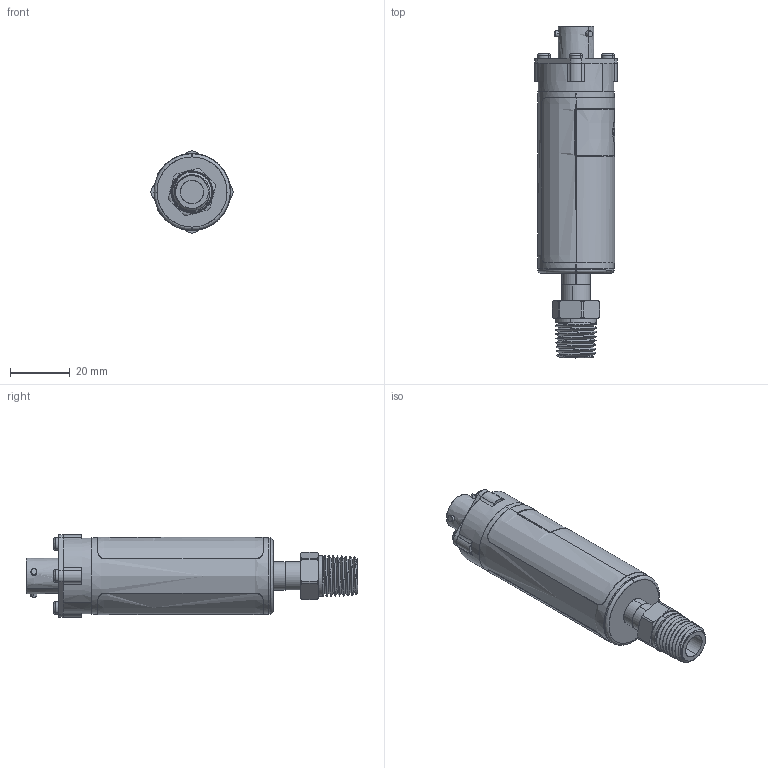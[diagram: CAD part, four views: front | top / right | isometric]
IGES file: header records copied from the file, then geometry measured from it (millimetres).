
Start section: SolidWorks IGES file using analytic representation for surfaces
Global section: file name: R:\Brooks Instrument\25-0024 SSII CAD File Generation\Client Files\SSII CAD Models for Website\CAD for Brooks Website\Example\GSD\GSD-XXXXXX-B-XXX-NT\IGES\GSD-XXXXXX-B-XXX-NT.IGS; native system: SolidWorks 2023; preprocessor: SolidWorks 2023; author: CYatsko; date: 250625.104825; units: inch
Bounding box: 27.45 x 110.93 x 27.45 mm (x, y, z)
Surface area: 17514.9 mm2 (no closed solid volume)
Topology: 0 solids, 0 shells, 405 faces, 5134 edges, 5134 vertices
Faces by surface type: bspline 232, revolution 173
